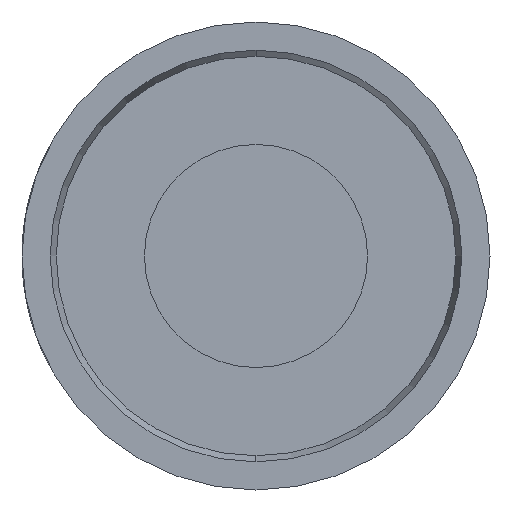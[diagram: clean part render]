
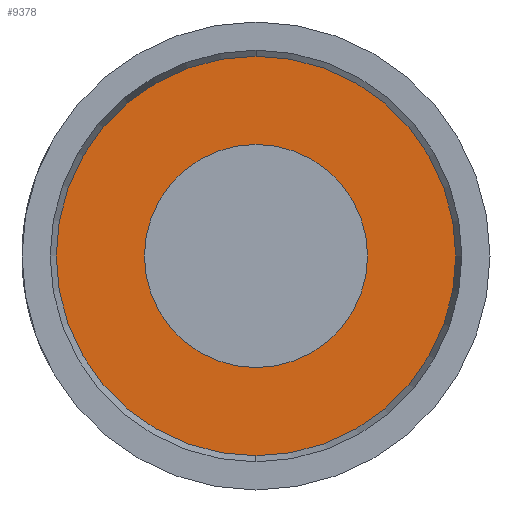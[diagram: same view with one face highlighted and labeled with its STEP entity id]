
A CAD part, left-side view. The second image highlights one B-rep face of the part: STEP entity #9378.
In plain terms, the highlighted planar face has unit normal (-1, 0, 0).
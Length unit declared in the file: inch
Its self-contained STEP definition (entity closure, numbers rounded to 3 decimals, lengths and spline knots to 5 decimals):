
#571 = CARTESIAN_POINT ( 'NONE',  ( 0., 0., 0.12 ) ) ;
#913 = CIRCLE ( 'NONE', #22318, 0.067 ) ;
#2443 = DIRECTION ( 'NONE',  ( -1., 0., 0. ) ) ;
#2673 = EDGE_CURVE ( 'NONE', #20325, #4228, #9631, .T. ) ;
#3021 = FACE_OUTER_BOUND ( 'NONE', #8328, .T. ) ;
#3768 = AXIS2_PLACEMENT_3D ( 'NONE', #19913, #9505, #21663 ) ;
#3772 = DIRECTION ( 'NONE',  ( -1., 0., 0. ) ) ;
#4228 = VERTEX_POINT ( 'NONE', #12811 ) ;
#4244 = ORIENTED_EDGE ( 'NONE', *, *, #4570, .F. ) ;
#4505 = AXIS2_PLACEMENT_3D ( 'NONE', #5378, #17555, #7130 ) ;
#4570 = EDGE_CURVE ( 'NONE', #13479, #5943, #913, .T. ) ;
#5378 = CARTESIAN_POINT ( 'NONE',  ( 0., -0.80016, 0. ) ) ;
#5943 = VERTEX_POINT ( 'NONE', #6276 ) ;
#6276 = CARTESIAN_POINT ( 'NONE',  ( 0., 0., -0.067 ) ) ;
#6346 = CARTESIAN_POINT ( 'NONE',  ( 0., 0., 0.067 ) ) ;
#6774 = AXIS2_PLACEMENT_3D ( 'NONE', #14204, #3772, #15986 ) ;
#7130 = DIRECTION ( 'NONE',  ( 0., 0., 1. ) ) ;
#8070 = AXIS2_PLACEMENT_3D ( 'NONE', #9373, #21538, #11119 ) ;
#8328 = EDGE_LOOP ( 'NONE', ( #19379, #12912 ) ) ;
#9373 = CARTESIAN_POINT ( 'NONE',  ( 0., 0., 0. ) ) ;
#9378 = ADVANCED_FACE ( 'NONE', ( #3021, #16964 ), #10531, .T. ) ;
#9505 = DIRECTION ( 'NONE',  ( -1., 0., 0. ) ) ;
#9631 = CIRCLE ( 'NONE', #3768, 0.12 ) ;
#10531 = PLANE ( 'NONE',  #4505 ) ;
#11018 = EDGE_LOOP ( 'NONE', ( #4244, #18685 ) ) ;
#11119 = DIRECTION ( 'NONE',  ( 0., 0., 1. ) ) ;
#12811 = CARTESIAN_POINT ( 'NONE',  ( 0., 0., -0.12 ) ) ;
#12853 = CARTESIAN_POINT ( 'NONE',  ( 0., 0., 0. ) ) ;
#12912 = ORIENTED_EDGE ( 'NONE', *, *, #15212, .T. ) ;
#13479 = VERTEX_POINT ( 'NONE', #6346 ) ;
#14004 = EDGE_CURVE ( 'NONE', #5943, #13479, #19811, .T. ) ;
#14204 = CARTESIAN_POINT ( 'NONE',  ( 0., 0., 0. ) ) ;
#14637 = DIRECTION ( 'NONE',  ( 0., 0., 1. ) ) ;
#15212 = EDGE_CURVE ( 'NONE', #4228, #20325, #16051, .T. ) ;
#15986 = DIRECTION ( 'NONE',  ( 0., 0., 1. ) ) ;
#16051 = CIRCLE ( 'NONE', #6774, 0.12 ) ;
#16964 = FACE_BOUND ( 'NONE', #11018, .T. ) ;
#17555 = DIRECTION ( 'NONE',  ( -1., 0., 0. ) ) ;
#18685 = ORIENTED_EDGE ( 'NONE', *, *, #14004, .F. ) ;
#19379 = ORIENTED_EDGE ( 'NONE', *, *, #2673, .T. ) ;
#19811 = CIRCLE ( 'NONE', #8070, 0.067 ) ;
#19913 = CARTESIAN_POINT ( 'NONE',  ( 0., 0., 0. ) ) ;
#20325 = VERTEX_POINT ( 'NONE', #571 ) ;
#21538 = DIRECTION ( 'NONE',  ( -1., 0., 0. ) ) ;
#21663 = DIRECTION ( 'NONE',  ( 0., 0., 1. ) ) ;
#22318 = AXIS2_PLACEMENT_3D ( 'NONE', #12853, #2443, #14637 ) ;
